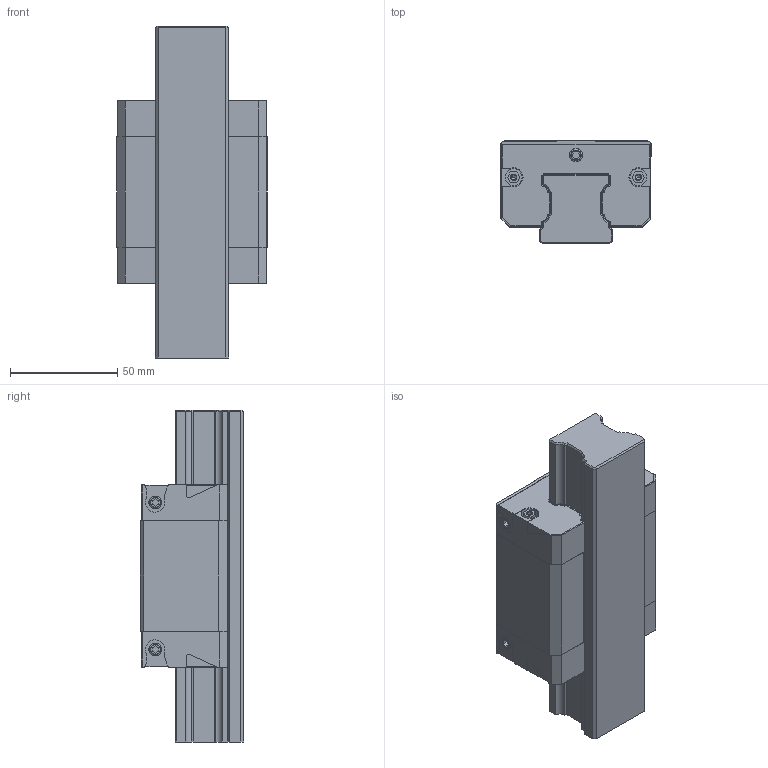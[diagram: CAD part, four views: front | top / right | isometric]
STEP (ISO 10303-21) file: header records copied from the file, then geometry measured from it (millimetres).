
FILE_DESCRIPTION((''),'2;1');
FILE_NAME('R1662_SIZE35_ASM','2020-04-16T04:12:28',('ac91sw'),(''),'CREO PARAMETRIC BY PTC INC, 2018420','CREO PARAMETRIC BY PTC INC, 2018420','');
FILE_SCHEMA(('AUTOMOTIVE_DESIGN { 1 0 10303 214 1 1 1 1 }'));
Length unit declared in the file: millimetre
Products named in the file (6): R1662_SIZE35_SKEL; R201030101; R200130102_Z; R343706101_Z; R1662_SIZE35_PSF; R1662_SIZE35_ASM
Assembly tree (11 placements, depth 2):
  R1662_SIZE35_ASM
    R1662_SIZE35_SKEL
    R201030101
    R200130102_Z  x2
    R343706101_Z  x6
    R1662_SIZE35_PSF
Bounding box: 70 x 48 x 154.5 mm (x, y, z)
Volume: 293337.9 mm3; surface area: 67240.3 mm2
Topology: 10 solids, 22 shells, 474 faces, 1224 edges, 780 vertices
Faces by surface type: plane 288, cylinder 130, cone 56
Entity records: 12936 total; most frequent: CARTESIAN_POINT 1571, DIRECTION 1372, ORIENTED_EDGE 1312, EDGE_CURVE 666, PROPERTY_DEFINITION 548, REPRESENTATION 541, PROPERTY_DEFINITION_REPRESENTATION 541, VECTOR 498
